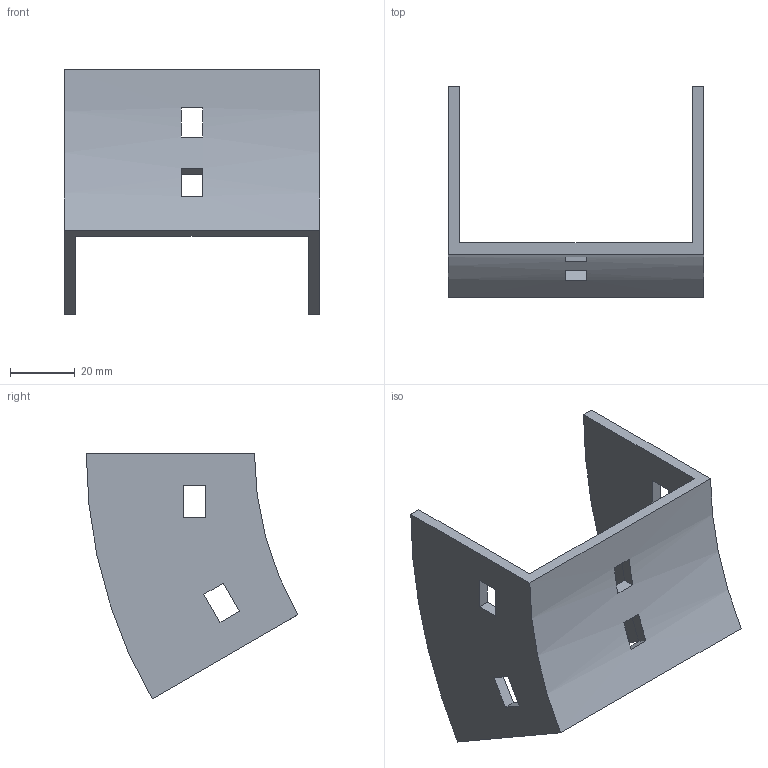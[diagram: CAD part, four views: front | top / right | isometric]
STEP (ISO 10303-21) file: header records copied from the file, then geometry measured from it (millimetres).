
FILE_DESCRIPTION (( 'STEP AP214' ), '1' );
FILE_NAME ('35B1B075.step', '2025-02-21T09:25:14', ( '' ), ( '' ), 'SwSTEP 2.0', 'SolidWorks 2023', '' );
FILE_SCHEMA (( 'AUTOMOTIVE_DESIGN' ));
Length unit declared in the file: millimetre
Products named in the file (1): 35B1B075
Bounding box: 79 x 65.4 x 76 mm (x, y, z)
Volume: 36044.8 mm3; surface area: 23075.8 mm2
Topology: 1 solids, 1 shells, 34 faces, 96 edges, 64 vertices
Faces by surface type: plane 30, cylinder 4
Entity records: 1143 total; most frequent: CARTESIAN_POINT 195, ORIENTED_EDGE 192, DIRECTION 182, EDGE_CURVE 96, VECTOR 80, LINE 80, VERTEX_POINT 64, AXIS2_PLACEMENT_3D 51
